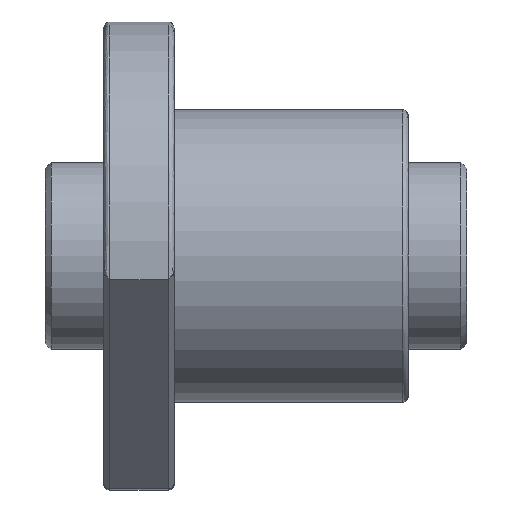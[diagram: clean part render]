
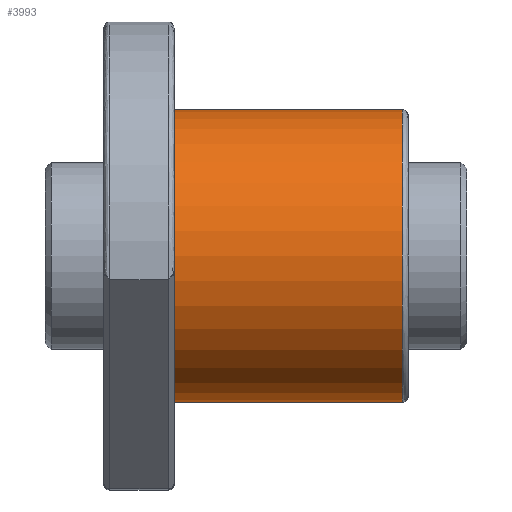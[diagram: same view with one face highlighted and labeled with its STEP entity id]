
A CAD part, front view. The second image highlights one B-rep face of the part: STEP entity #3993.
In plain terms, the highlighted cylindrical face has radius 25 mm (diameter 50 mm), a partial arc.
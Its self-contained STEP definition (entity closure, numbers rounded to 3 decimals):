
#6 = LINE ( 'NONE', #397, #1171 ) ;
#13 = ORIENTED_EDGE ( 'NONE', *, *, #150, .T. ) ;
#150 = EDGE_CURVE ( 'NONE', #4208, #3405, #6058, .T. ) ;
#397 = CARTESIAN_POINT ( 'NONE',  ( 52., 0., -25. ) ) ;
#402 = AXIS2_PLACEMENT_3D ( 'NONE', #2780, #6108, #3716 ) ;
#601 = CIRCLE ( 'NONE', #5918, 25. ) ;
#726 = EDGE_CURVE ( 'NONE', #1166, #3961, #601, .T. ) ;
#928 = CARTESIAN_POINT ( 'NONE',  ( 51., 0., 0. ) ) ;
#1147 = AXIS2_PLACEMENT_3D ( 'NONE', #2273, #4681, #4135 ) ;
#1166 = VERTEX_POINT ( 'NONE', #3304 ) ;
#1171 = VECTOR ( 'NONE', #5653, 1000. ) ;
#1179 = EDGE_CURVE ( 'NONE', #3961, #4208, #4627, .T. ) ;
#1697 = FACE_OUTER_BOUND ( 'NONE', #5020, .T. ) ;
#1743 = ORIENTED_EDGE ( 'NONE', *, *, #4017, .F. ) ;
#1884 = CARTESIAN_POINT ( 'NONE',  ( 12., 0., -25. ) ) ;
#1906 = DIRECTION ( 'NONE',  ( 0., 0., 1. ) ) ;
#2052 = CARTESIAN_POINT ( 'NONE',  ( 12., 0., 25. ) ) ;
#2273 = CARTESIAN_POINT ( 'NONE',  ( 52., 0., 0. ) ) ;
#2780 = CARTESIAN_POINT ( 'NONE',  ( 12., 0., 0. ) ) ;
#2840 = CARTESIAN_POINT ( 'NONE',  ( 52., 0., 25. ) ) ;
#3304 = CARTESIAN_POINT ( 'NONE',  ( 51., 0., -25. ) ) ;
#3405 = VERTEX_POINT ( 'NONE', #1884 ) ;
#3716 = DIRECTION ( 'NONE',  ( 0., 0., 1. ) ) ;
#3961 = VERTEX_POINT ( 'NONE', #4941 ) ;
#3993 = ADVANCED_FACE ( 'NONE', ( #1697 ), #5739, .T. ) ;
#4017 = EDGE_CURVE ( 'NONE', #1166, #3405, #6, .T. ) ;
#4135 = DIRECTION ( 'NONE',  ( 0., 0., 1. ) ) ;
#4208 = VERTEX_POINT ( 'NONE', #2052 ) ;
#4264 = DIRECTION ( 'NONE',  ( -1., 0., 0. ) ) ;
#4627 = LINE ( 'NONE', #2840, #5751 ) ;
#4681 = DIRECTION ( 'NONE',  ( -1., 0., 0. ) ) ;
#4759 = ORIENTED_EDGE ( 'NONE', *, *, #726, .T. ) ;
#4941 = CARTESIAN_POINT ( 'NONE',  ( 51., 0., 25. ) ) ;
#5020 = EDGE_LOOP ( 'NONE', ( #1743, #4759, #6068, #13 ) ) ;
#5304 = DIRECTION ( 'NONE',  ( -1., 0., 0. ) ) ;
#5653 = DIRECTION ( 'NONE',  ( -1., 0., 0. ) ) ;
#5739 = CYLINDRICAL_SURFACE ( 'NONE', #1147, 25. ) ;
#5751 = VECTOR ( 'NONE', #4264, 1000. ) ;
#5918 = AXIS2_PLACEMENT_3D ( 'NONE', #928, #5304, #1906 ) ;
#6058 = CIRCLE ( 'NONE', #402, 25. ) ;
#6068 = ORIENTED_EDGE ( 'NONE', *, *, #1179, .T. ) ;
#6108 = DIRECTION ( 'NONE',  ( 1., 0., 0. ) ) ;
